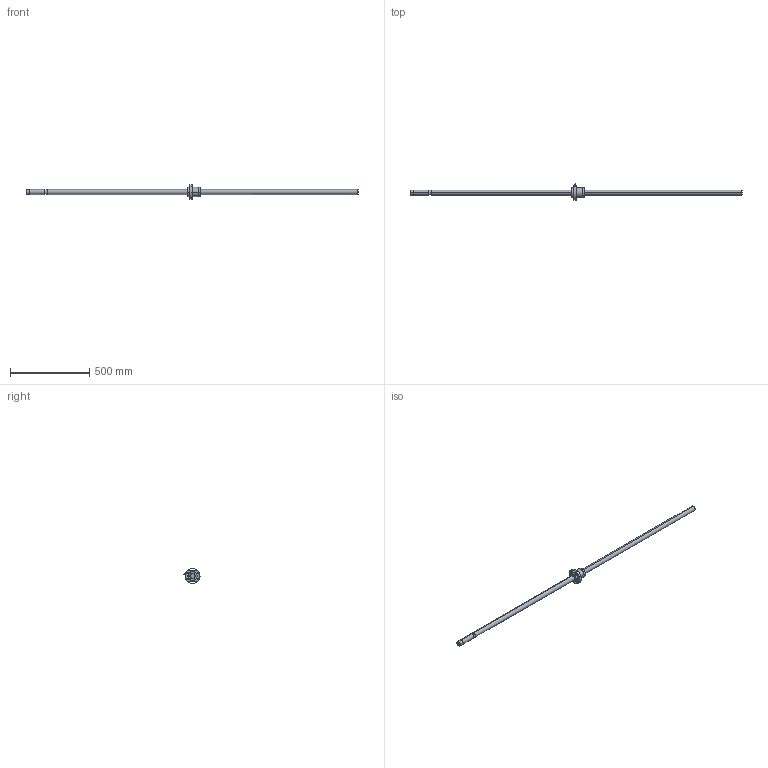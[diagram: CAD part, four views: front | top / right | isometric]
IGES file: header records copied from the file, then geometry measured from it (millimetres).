
Global section: file name: No Iges File Name specified; native system: AutoDesk Inventor R10; preprocessor: AutoDesk Inventor Iges Exporter R10; author: No Author specified; organization: No Organization specified; date: 20101224.134855; units: millimetre
Bounding box: 2100 x 101.33 x 93.91 mm (x, y, z)
Surface area: 252230.1 mm2 (no closed solid volume)
Topology: 0 solids, 0 shells, 78 faces, 478 edges, 474 vertices
Faces by surface type: bspline 78
